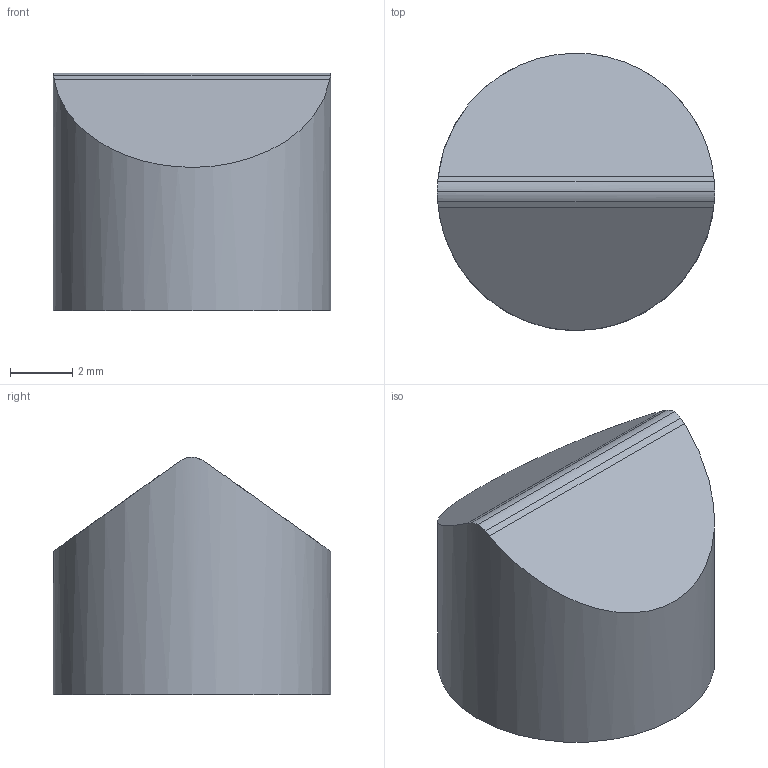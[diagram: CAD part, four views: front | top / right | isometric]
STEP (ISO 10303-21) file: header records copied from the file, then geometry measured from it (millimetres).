
FILE_DESCRIPTION(/* description */ ('Alibre Inc.'),/* implementation_level */ '2;1');
FILE_NAME(/* name */ 'export0',/* time_stamp */ '2011-07-18T14:50:12-04:00',/* author */ (''),/* organization */ (''),/* preprocessor_version */ 'ST-DEVELOPER v12',/* originating_system */ 'Alibre',/* authorisation */ '');
FILE_SCHEMA (('AUTOMOTIVE_DESIGN'));
Length unit declared in the file: centimetre
Bounding box: 8.89 x 8.89 x 7.62 mm (x, y, z)
Volume: 398.5 mm3; surface area: 297.8 mm2
Topology: 1 solids, 1 shells, 8 faces, 17 edges, 11 vertices
Faces by surface type: bspline 4, plane 3, cylinder 1
Full cylindrical faces by diameter (mm): 8.89 x1
Entity records: 269 total; most frequent: CARTESIAN_POINT 109, ORIENTED_EDGE 32, EDGE_CURVE 16, DIRECTION 16, VERTEX_POINT 11, EDGE_LOOP 9, FACE_BOUND 9, B_SPLINE_CURVE_WITH_KNOTS 8
